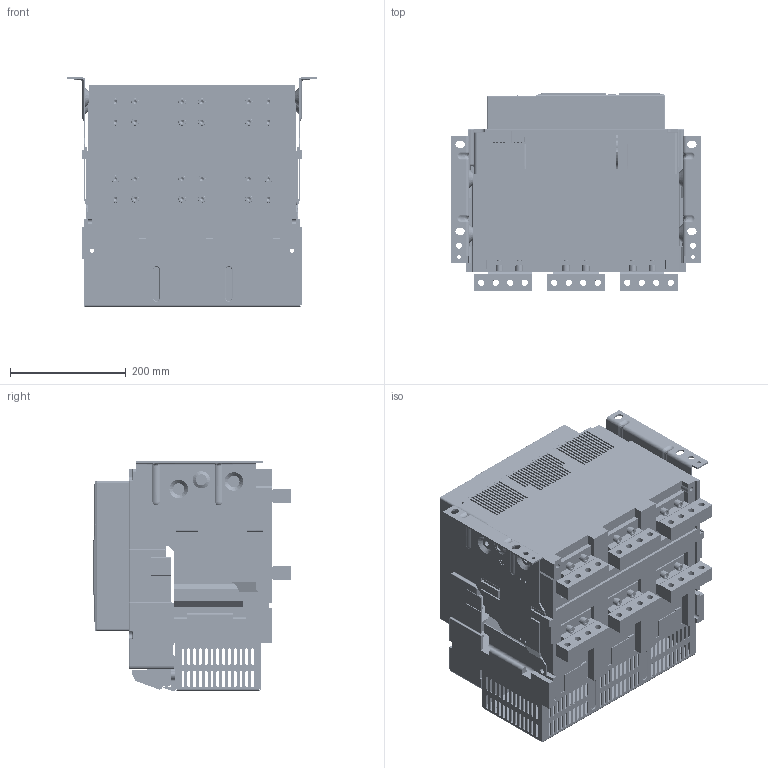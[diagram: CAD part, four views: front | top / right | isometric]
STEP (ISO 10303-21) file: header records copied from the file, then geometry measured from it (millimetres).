
FILE_DESCRIPTION((''),'2;1');
FILE_NAME('NA8-4000H-3P-F-3200A-4000A-H_ASM','2021-11-10T17:05:02',('lcc'),(''),'CREO PARAMETRIC BY PTC INC, 2020044','CREO PARAMETRIC BY PTC INC, 2020044','');
FILE_SCHEMA(('CONFIG_CONTROL_DESIGN','SHAPE_APPEARANCE_LAYERS_GROUPS'));
Products named in the file (35): 4000-JIZUO-3P; 4000-DIBAN-3P; 8ZTD_123_166_2; 8ZTD_123_167_2; DEFAULT_BREP_X_03-883; DEFAULT_BREP_X_03-884; DEFAULT_BREP_X_03-885; DEFAULT_BREP_X_03-886; DEFAULT_BREP_X_03-887; DEFAULT_BREP_X_03-888; DEFAULT_BREP_X_03-889; 8ZTD_060_209_V4_1_ASM; 8ZTD-253-577; 8ZTD-253-779; 8ZTD-253-780; 8ZTD-321-090; 8-040-432; 8-004-030; 8-320-094; 8-860-KZQ; 8ZTD-253-782; 5ZTD-060-114-2_ASM; 8060A0306108; 8060A0306109; 3P-8300A0306005_; 8ZTD-064-138; 8ZTD-024-689; 8ZTD-860-511; 1600-DUANZI-CTS_ASM; 8580A0412011; 8580A0412010; GBT70_1-M8X20; GB93-8_1; QNKJ_0200012_2-M8X20_ASM; NA8-4000H-3P-F-3200A-4000A-H_ASM
Assembly tree (74 placements, depth 4):
  NA8-4000H-3P-F-3200A-4000A-H_ASM
    4000-JIZUO-3P
    4000-DIBAN-3P
    8ZTD_123_166_2
    8ZTD_123_167_2
    5ZTD-060-114-2_ASM
      8ZTD_060_209_V4_1_ASM
        DEFAULT_BREP_X_03-883
        DEFAULT_BREP_X_03-884
        DEFAULT_BREP_X_03-885
        DEFAULT_BREP_X_03-886
        DEFAULT_BREP_X_03-887
        DEFAULT_BREP_X_03-888
        DEFAULT_BREP_X_03-889
      8ZTD-253-577
      8ZTD-253-779
      8ZTD-253-780
      8ZTD-321-090
      8-040-432
      8-004-030
      8-320-094
      8-860-KZQ
      8ZTD-253-782
    8060A0306108
    8060A0306109
    3P-8300A0306005_
    1600-DUANZI-CTS_ASM
      8ZTD-064-138
      8ZTD-024-689  x14
      8ZTD-860-511
    8580A0412011  x4
    8580A0412010  x2
    QNKJ_0200012_2-M8X20_ASM  x24
      GBT70_1-M8X20
      GB93-8_1
Bounding box: 430 x 341.12 x 396 mm (x, y, z)
Volume: 19589236.1 mm3; surface area: 2505078.5 mm2
Topology: 93 solids, 139 shells, 8796 faces, 23931 edges, 15564 vertices
Faces by surface type: plane 6121, cylinder 1710, cone 407, extrusion 225, bspline 180, torus 113, sphere 40
Entity records: 285822 total; most frequent: CARTESIAN_POINT 55482, ORIENTED_EDGE 33050, DIRECTION 30000, PRESENTATION_STYLE_ASSIGNMENT 19420, STYLED_ITEM 19300, EDGE_CURVE 16543, CURVE_STYLE 15140, VECTOR 12454
